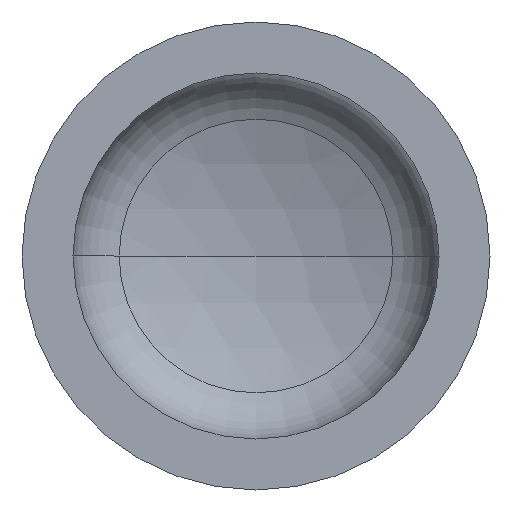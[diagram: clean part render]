
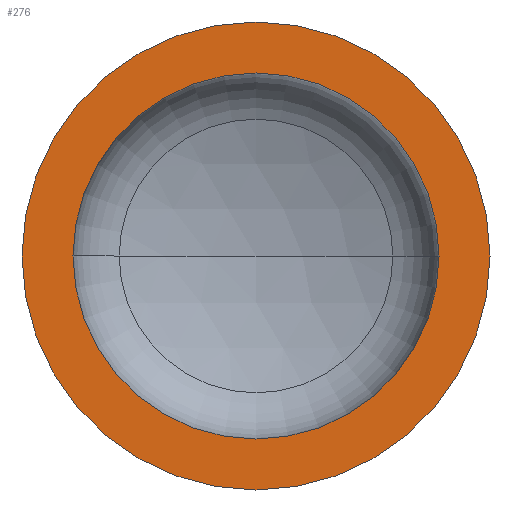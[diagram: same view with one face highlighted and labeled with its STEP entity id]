
A CAD part, front view. The second image highlights one B-rep face of the part: STEP entity #276.
In plain terms, the highlighted planar face has unit normal (0, -1, 0).
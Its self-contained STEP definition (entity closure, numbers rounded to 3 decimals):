
#5 = AXIS2_PLACEMENT_3D ( 'NONE', #211, #365, #240 ) ;
#6 = CIRCLE ( 'NONE', #87, 450. ) ;
#18 = ORIENTED_EDGE ( 'NONE', *, *, #105, .T. ) ;
#21 = AXIS2_PLACEMENT_3D ( 'NONE', #341, #207, #362 ) ;
#32 = ORIENTED_EDGE ( 'NONE', *, *, #389, .T. ) ;
#39 = AXIS2_PLACEMENT_3D ( 'NONE', #337, #379, #258 ) ;
#79 = VERTEX_POINT ( 'NONE', #248 ) ;
#84 = AXIS2_PLACEMENT_3D ( 'NONE', #185, #183, #176 ) ;
#87 = AXIS2_PLACEMENT_3D ( 'NONE', #209, #205, #200 ) ;
#96 = ORIENTED_EDGE ( 'NONE', *, *, #353, .F. ) ;
#105 = EDGE_CURVE ( 'NONE', #79, #129, #6, .T. ) ;
#108 = EDGE_CURVE ( 'NONE', #110, #327, #367, .T. ) ;
#109 = ORIENTED_EDGE ( 'NONE', *, *, #108, .F. ) ;
#110 = VERTEX_POINT ( 'NONE', #145 ) ;
#113 = FACE_OUTER_BOUND ( 'NONE', #138, .T. ) ;
#129 = VERTEX_POINT ( 'NONE', #130 ) ;
#130 = CARTESIAN_POINT ( 'NONE',  ( 450., 0., 0. ) ) ;
#138 = EDGE_LOOP ( 'NONE', ( #32, #18 ) ) ;
#145 = CARTESIAN_POINT ( 'NONE',  ( 352., 0., 0. ) ) ;
#161 = EDGE_LOOP ( 'NONE', ( #109, #96 ) ) ;
#171 = CARTESIAN_POINT ( 'NONE',  ( -352., 0., 0. ) ) ;
#176 = DIRECTION ( 'NONE',  ( 1., 0., 0. ) ) ;
#183 = DIRECTION ( 'NONE',  ( 0., -1., 0. ) ) ;
#185 = CARTESIAN_POINT ( 'NONE',  ( 0., 0., 0. ) ) ;
#200 = DIRECTION ( 'NONE',  ( 1., 0., 0. ) ) ;
#205 = DIRECTION ( 'NONE',  ( 0., -1., 0. ) ) ;
#207 = DIRECTION ( 'NONE',  ( 0., -1., 0. ) ) ;
#209 = CARTESIAN_POINT ( 'NONE',  ( 0., 0., 0. ) ) ;
#211 = CARTESIAN_POINT ( 'NONE',  ( 0., 0., 0. ) ) ;
#240 = DIRECTION ( 'NONE',  ( 1., 0., 0. ) ) ;
#248 = CARTESIAN_POINT ( 'NONE',  ( -450., 0., 0. ) ) ;
#258 = DIRECTION ( 'NONE',  ( -1., 0., 0. ) ) ;
#276 = ADVANCED_FACE ( 'NONE', ( #292, #113 ), #358, .F. ) ;
#292 = FACE_BOUND ( 'NONE', #161, .T. ) ;
#314 = CIRCLE ( 'NONE', #5, 450. ) ;
#321 = CIRCLE ( 'NONE', #21, 352. ) ;
#327 = VERTEX_POINT ( 'NONE', #171 ) ;
#337 = CARTESIAN_POINT ( 'NONE',  ( -450., 0., 0. ) ) ;
#341 = CARTESIAN_POINT ( 'NONE',  ( 0., 0., 0. ) ) ;
#353 = EDGE_CURVE ( 'NONE', #327, #110, #321, .T. ) ;
#358 = PLANE ( 'NONE',  #39 ) ;
#362 = DIRECTION ( 'NONE',  ( 1., 0., 0. ) ) ;
#365 = DIRECTION ( 'NONE',  ( 0., -1., 0. ) ) ;
#367 = CIRCLE ( 'NONE', #84, 352. ) ;
#379 = DIRECTION ( 'NONE',  ( 0., 1., 0. ) ) ;
#389 = EDGE_CURVE ( 'NONE', #129, #79, #314, .T. ) ;
